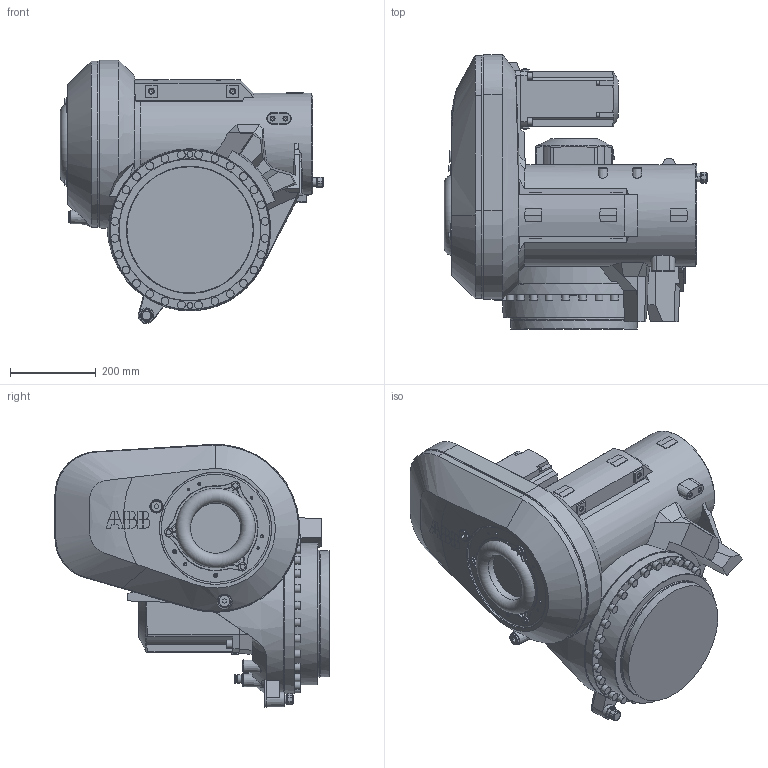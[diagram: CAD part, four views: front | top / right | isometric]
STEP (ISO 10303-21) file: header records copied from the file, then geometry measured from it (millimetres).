
FILE_DESCRIPTION (( 'STEP AP214' ), '1' );
FILE_NAME ('IRB6750S_All_OC_00_LINK03_CAD.step', '2026-05-13T05:22:09', ( '' ), ( '' ), 'SwSTEP 2.0', 'SolidWorks 2024', '' );
FILE_SCHEMA (( 'AUTOMOTIVE_DESIGN' ));
Length unit declared in the file: millimetre
Products named in the file (1): IRB6750S_All_OC_00_LINK03_CAD
Bounding box: 614.46 x 640 x 614.39 mm (x, y, z)
Volume: 63324576 mm3; surface area: 1908619.2 mm2
Topology: 1 solids, 4 shells, 1140 faces, 2965 edges, 1930 vertices
Faces by surface type: plane 648, cone 203, cylinder 145, bspline 99, torus 41, sphere 4
Full cylindrical faces by diameter (mm): 5 x11, 6 x3, 6.8 x2, 8.5 x4, 10 x9, 10.2 x6, 12 x3, 14 x2, 16.27 x4, 17.7 x1, 18.27 x28, 19 x4, 19.4 x2, 19.7 x2, 20 x4, 23 x1, 26.5 x1, 27 x3, 28 x1, 28.58 x1, 170 x1, 295 x1, 297 x1, 332 x1, 373 x1
Entity records: 56191 total; most frequent: CARTESIAN_POINT 18660, ORIENTED_EDGE 5244, DIRECTION 4712, EDGE_CURVE 2622, VERTEX_POINT 1815, AXIS2_PLACEMENT_3D 1796, EDGE_LOOP 1473, FACE_OUTER_BOUND 1255
